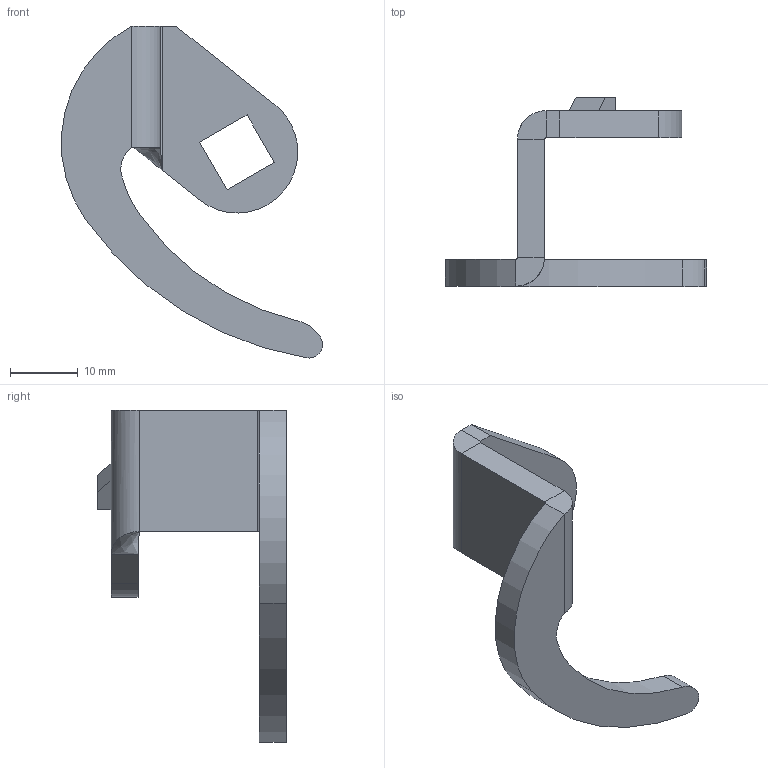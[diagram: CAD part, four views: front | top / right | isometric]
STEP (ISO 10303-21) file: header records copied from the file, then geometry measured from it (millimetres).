
FILE_DESCRIPTION (( 'STEP AP214' ), '1' );
FILE_NAME ('1C.J-6000.03.STEP', '2016-08-17T12:16:41', ( 'RST-Dolba' ), ( '' ), 'SwSTEP 2.0', 'SolidWorks 2015', '' );
FILE_SCHEMA (( 'AUTOMOTIVE_DESIGN' ));
Length unit declared in the file: millimetre
Products named in the file (1): 1C.J-6000.03
Bounding box: 38.67 x 28 x 49.19 mm (x, y, z)
Volume: 4833.4 mm3; surface area: 3471.4 mm2
Topology: 1 solids, 1 shells, 39 faces, 92 edges, 56 vertices
Faces by surface type: plane 23, cylinder 15, bspline 1
Entity records: 1167 total; most frequent: CARTESIAN_POINT 221, DIRECTION 196, ORIENTED_EDGE 184, EDGE_CURVE 92, AXIS2_PLACEMENT_3D 67, VECTOR 62, LINE 62, VERTEX_POINT 56
